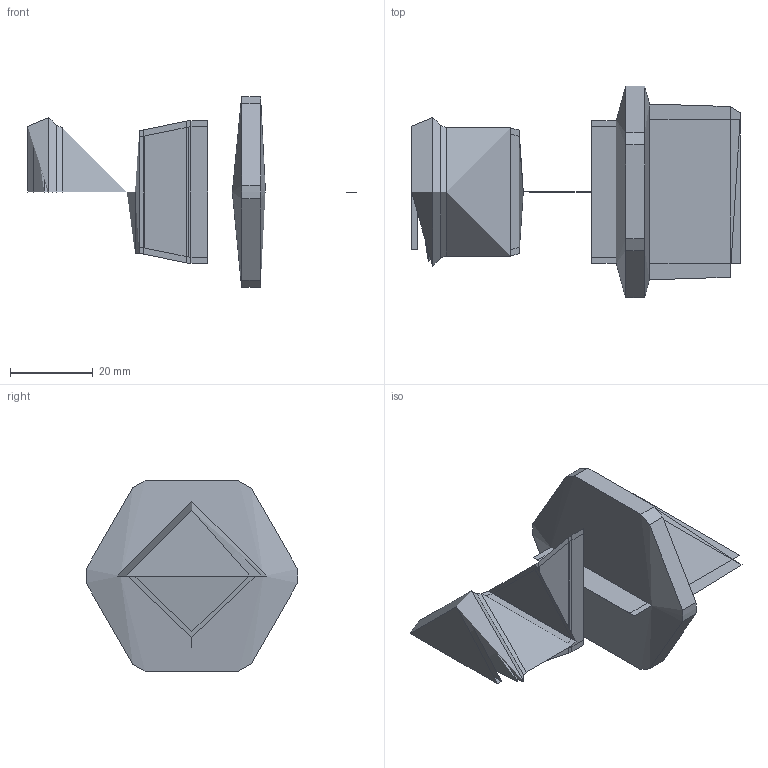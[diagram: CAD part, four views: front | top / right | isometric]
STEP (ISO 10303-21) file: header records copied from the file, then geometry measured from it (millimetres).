
FILE_DESCRIPTION(('FreeCAD Model'),'2;1');
FILE_NAME('Open CASCADE Shape Model','2025-10-20T15:01:24',('Author'),( ''),'Open CASCADE STEP processor 7.8','FreeCAD','Unknown');
FILE_SCHEMA(('AUTOMOTIVE_DESIGN { 1 0 10303 214 1 1 1 1 }'));
Length unit declared in the file: millimetre
Products named in the file (7): Unnamed158; COMPOUND; COMPOUND001; X-Achse; XY-Ebene; COMPOUND002; COMPOUND003
Assembly tree (18 placements, depth 3):
  Unnamed158
    COMPOUND
    COMPOUND001
      COMPOUND
    X-Achse  x6
    XY-Ebene  x6
    COMPOUND002
    COMPOUND003
      COMPOUND002
Bounding box: 79.5 x 51.22 x 46 mm (x, y, z)
Volume: 46129.2 mm3; surface area: 39027.5 mm2
Topology: 4 solids, 4 shells, 92 faces, 286 edges, 198 vertices
Faces by surface type: bspline 92
Entity records: 2280 total; most frequent: CARTESIAN_POINT 1338, ORIENTED_EDGE 280, EDGE_CURVE 140, VERTEX_POINT 99, FACE_BOUND 51, EDGE_LOOP 51, ADVANCED_FACE 46, DIRECTION 39
